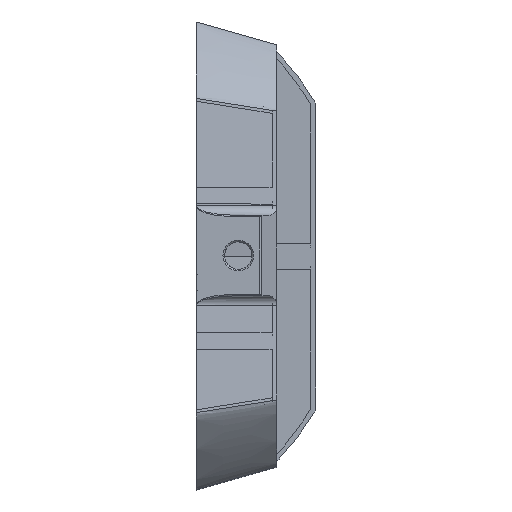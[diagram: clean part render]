
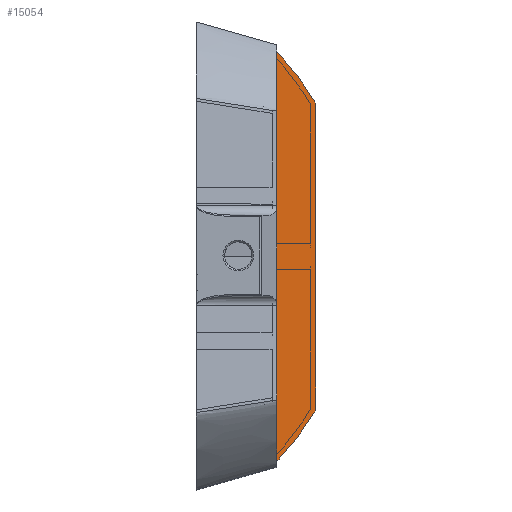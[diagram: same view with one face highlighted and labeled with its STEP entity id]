
A CAD part, top view. The second image highlights one B-rep face of the part: STEP entity #15054.
In plain terms, the highlighted planar face has unit normal (0, 0, 1).
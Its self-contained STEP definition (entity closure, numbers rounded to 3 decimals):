
#687=DIRECTION('',(0.,-1.,0.));
#688=VECTOR('',#687,126.575);
#689=CARTESIAN_POINT('',(98.,63.288,235.));
#690=LINE('',#689,#688);
#5683=DIRECTION('',(0.,-1.,0.));
#5684=VECTOR('',#5683,94.625);
#5685=CARTESIAN_POINT('',(110.,47.313,235.));
#5686=LINE('',#5685,#5684);
#5794=CARTESIAN_POINT('',(98.,-63.288,235.));
#5795=CARTESIAN_POINT('',(98.034,-63.278,235.));
#5796=CARTESIAN_POINT('',(98.101,-63.247,235.));
#5797=CARTESIAN_POINT('',(98.204,-63.185,235.));
#5798=CARTESIAN_POINT('',(98.312,-63.108,235.));
#5799=CARTESIAN_POINT('',(98.425,-63.019,235.));
#5800=CARTESIAN_POINT('',(98.545,-62.917,235.));
#5801=CARTESIAN_POINT('',(98.673,-62.803,235.));
#5802=CARTESIAN_POINT('',(98.81,-62.676,235.));
#5803=CARTESIAN_POINT('',(98.957,-62.534,235.));
#5804=CARTESIAN_POINT('',(99.116,-62.376,235.));
#5805=CARTESIAN_POINT('',(99.288,-62.201,235.));
#5806=CARTESIAN_POINT('',(99.474,-62.007,235.));
#5807=CARTESIAN_POINT('',(99.674,-61.792,235.));
#5808=CARTESIAN_POINT('',(99.891,-61.555,235.));
#5809=CARTESIAN_POINT('',(100.127,-61.294,235.));
#5810=CARTESIAN_POINT('',(100.382,-61.005,235.));
#5811=CARTESIAN_POINT('',(100.658,-60.687,235.));
#5812=CARTESIAN_POINT('',(100.959,-60.336,235.));
#5813=CARTESIAN_POINT('',(101.285,-59.95,235.));
#5814=CARTESIAN_POINT('',(101.639,-59.523,235.));
#5815=CARTESIAN_POINT('',(102.024,-59.054,235.));
#5816=CARTESIAN_POINT('',(102.442,-58.536,235.));
#5817=CARTESIAN_POINT('',(102.896,-57.965,235.));
#5818=CARTESIAN_POINT('',(103.386,-57.34,235.));
#5819=CARTESIAN_POINT('',(103.916,-56.654,235.));
#5820=CARTESIAN_POINT('',(104.491,-55.898,235.));
#5821=CARTESIAN_POINT('',(105.098,-55.086,235.));
#5822=CARTESIAN_POINT('',(105.682,-54.289,235.));
#5823=CARTESIAN_POINT('',(106.196,-53.576,235.));
#5824=CARTESIAN_POINT('',(106.644,-52.945,235.));
#5825=CARTESIAN_POINT('',(107.04,-52.378,235.));
#5826=CARTESIAN_POINT('',(107.392,-51.866,235.));
#5827=CARTESIAN_POINT('',(107.707,-51.401,235.));
#5828=CARTESIAN_POINT('',(107.989,-50.977,235.));
#5829=CARTESIAN_POINT('',(108.243,-50.59,235.));
#5830=CARTESIAN_POINT('',(108.471,-50.236,235.));
#5831=CARTESIAN_POINT('',(108.677,-49.91,235.));
#5832=CARTESIAN_POINT('',(108.863,-49.611,235.));
#5833=CARTESIAN_POINT('',(109.03,-49.337,235.));
#5834=CARTESIAN_POINT('',(109.18,-49.084,235.));
#5835=CARTESIAN_POINT('',(109.315,-48.852,235.));
#5836=CARTESIAN_POINT('',(109.436,-48.639,235.));
#5837=CARTESIAN_POINT('',(109.543,-48.442,235.));
#5838=CARTESIAN_POINT('',(109.638,-48.261,235.));
#5839=CARTESIAN_POINT('',(109.722,-48.094,235.));
#5840=CARTESIAN_POINT('',(109.796,-47.939,235.));
#5841=CARTESIAN_POINT('',(109.86,-47.796,235.));
#5842=CARTESIAN_POINT('',(109.914,-47.662,235.));
#5843=CARTESIAN_POINT('',(109.958,-47.537,235.));
#5844=CARTESIAN_POINT('',(109.989,-47.421,235.));
#5845=CARTESIAN_POINT('',(110.,-47.348,235.));
#5846=CARTESIAN_POINT('',(110.,-47.313,235.));
#5903=CARTESIAN_POINT('',(110.,47.313,235.));
#5904=CARTESIAN_POINT('',(110.,47.348,235.));
#5905=CARTESIAN_POINT('',(109.989,47.421,235.));
#5906=CARTESIAN_POINT('',(109.958,47.537,235.));
#5907=CARTESIAN_POINT('',(109.914,47.662,235.));
#5908=CARTESIAN_POINT('',(109.86,47.796,235.));
#5909=CARTESIAN_POINT('',(109.796,47.94,235.));
#5910=CARTESIAN_POINT('',(109.722,48.094,235.));
#5911=CARTESIAN_POINT('',(109.638,48.261,235.));
#5912=CARTESIAN_POINT('',(109.543,48.442,235.));
#5913=CARTESIAN_POINT('',(109.436,48.639,235.));
#5914=CARTESIAN_POINT('',(109.315,48.853,235.));
#5915=CARTESIAN_POINT('',(109.18,49.085,235.));
#5916=CARTESIAN_POINT('',(109.03,49.337,235.));
#5917=CARTESIAN_POINT('',(108.863,49.612,235.));
#5918=CARTESIAN_POINT('',(108.677,49.91,235.));
#5919=CARTESIAN_POINT('',(108.471,50.236,235.));
#5920=CARTESIAN_POINT('',(108.243,50.59,235.));
#5921=CARTESIAN_POINT('',(107.99,50.976,235.));
#5922=CARTESIAN_POINT('',(107.709,51.397,235.));
#5923=CARTESIAN_POINT('',(107.399,51.856,235.));
#5924=CARTESIAN_POINT('',(107.054,52.357,235.));
#5925=CARTESIAN_POINT('',(106.674,52.902,235.));
#5926=CARTESIAN_POINT('',(106.252,53.497,235.));
#5927=CARTESIAN_POINT('',(105.788,54.142,235.));
#5928=CARTESIAN_POINT('',(105.277,54.842,235.));
#5929=CARTESIAN_POINT('',(104.711,55.605,235.));
#5930=CARTESIAN_POINT('',(104.1,56.414,235.));
#5931=CARTESIAN_POINT('',(103.498,57.197,235.));
#5932=CARTESIAN_POINT('',(102.955,57.89,235.));
#5933=CARTESIAN_POINT('',(102.474,58.495,235.));
#5934=CARTESIAN_POINT('',(102.04,59.033,235.));
#5935=CARTESIAN_POINT('',(101.646,59.515,235.));
#5936=CARTESIAN_POINT('',(101.288,59.946,235.));
#5937=CARTESIAN_POINT('',(100.959,60.335,235.));
#5938=CARTESIAN_POINT('',(100.658,60.687,235.));
#5939=CARTESIAN_POINT('',(100.382,61.005,235.));
#5940=CARTESIAN_POINT('',(100.126,61.294,235.));
#5941=CARTESIAN_POINT('',(99.891,61.555,235.));
#5942=CARTESIAN_POINT('',(99.674,61.792,235.));
#5943=CARTESIAN_POINT('',(99.473,62.007,235.));
#5944=CARTESIAN_POINT('',(99.288,62.201,235.));
#5945=CARTESIAN_POINT('',(99.116,62.376,235.));
#5946=CARTESIAN_POINT('',(98.957,62.534,235.));
#5947=CARTESIAN_POINT('',(98.81,62.676,235.));
#5948=CARTESIAN_POINT('',(98.673,62.803,235.));
#5949=CARTESIAN_POINT('',(98.545,62.917,235.));
#5950=CARTESIAN_POINT('',(98.425,63.019,235.));
#5951=CARTESIAN_POINT('',(98.312,63.108,235.));
#5952=CARTESIAN_POINT('',(98.204,63.185,235.));
#5953=CARTESIAN_POINT('',(98.101,63.247,235.));
#5954=CARTESIAN_POINT('',(98.034,63.278,235.));
#5955=CARTESIAN_POINT('',(98.,63.288,235.));
#7031=CARTESIAN_POINT('',(98.,63.288,235.));
#7032=VERTEX_POINT('',#7031);
#7054=CARTESIAN_POINT('',(98.,-63.288,235.));
#7055=VERTEX_POINT('',#7054);
#8172=CARTESIAN_POINT('',(110.,47.313,235.));
#8173=CARTESIAN_POINT('',(110.,-47.313,235.));
#8174=VERTEX_POINT('',#8172);
#8175=VERTEX_POINT('',#8173);
#15040=CARTESIAN_POINT('',(116.5,1167.992,235.));
#15041=DIRECTION('',(0.,0.,1.));
#15042=DIRECTION('',(1.,0.,0.));
#15043=AXIS2_PLACEMENT_3D('',#15040,#15041,#15042);
#15044=PLANE('',#15043);
#15046=ORIENTED_EDGE('',*,*,#15045,.T.);
#15048=ORIENTED_EDGE('',*,*,#15047,.F.);
#15049=ORIENTED_EDGE('',*,*,#8915,.F.);
#15051=ORIENTED_EDGE('',*,*,#15050,.F.);
#15052=EDGE_LOOP('',(#15046,#15048,#15049,#15051));
#15053=FACE_OUTER_BOUND('',#15052,.F.);
#15054=ADVANCED_FACE('',(#15053),#15044,.T.);
#5847=B_SPLINE_CURVE_WITH_KNOTS('',3,(#5794,#5795,#5796,#5797,#5798,#5799,#5800,
#5801,#5802,#5803,#5804,#5805,#5806,#5807,#5808,#5809,#5810,#5811,#5812,#5813,
#5814,#5815,#5816,#5817,#5818,#5819,#5820,#5821,#5822,#5823,#5824,#5825,#5826,
#5827,#5828,#5829,#5830,#5831,#5832,#5833,#5834,#5835,#5836,#5837,#5838,#5839,
#5840,#5841,#5842,#5843,#5844,#5845,#5846),.UNSPECIFIED.,.F.,.F.,(4,1,1,1,1,1,1,
1,1,1,1,1,1,1,1,1,1,1,1,1,1,1,1,1,1,1,1,1,1,1,1,1,1,1,1,1,1,1,1,1,1,1,1,1,1,1,1,
1,1,1,4),(0.,0.02,0.04,0.06,0.08,0.1,0.12,0.14,0.16,0.18,0.2,
0.22,0.24,0.26,0.28,0.3,0.32,0.34,0.36,0.38,0.4,0.42,
0.44,0.46,0.48,0.5,0.52,0.54,0.56,0.58,0.6,0.62,0.64,
0.66,0.68,0.7,0.72,0.74,0.76,0.78,0.8,0.82,0.84,0.86,
0.88,0.9,0.92,0.94,0.96,0.98,1.),.UNSPECIFIED.);
#5956=B_SPLINE_CURVE_WITH_KNOTS('',3,(#5903,#5904,#5905,#5906,#5907,#5908,#5909,
#5910,#5911,#5912,#5913,#5914,#5915,#5916,#5917,#5918,#5919,#5920,#5921,#5922,
#5923,#5924,#5925,#5926,#5927,#5928,#5929,#5930,#5931,#5932,#5933,#5934,#5935,
#5936,#5937,#5938,#5939,#5940,#5941,#5942,#5943,#5944,#5945,#5946,#5947,#5948,
#5949,#5950,#5951,#5952,#5953,#5954,#5955),.UNSPECIFIED.,.F.,.F.,(4,1,1,1,1,1,1,
1,1,1,1,1,1,1,1,1,1,1,1,1,1,1,1,1,1,1,1,1,1,1,1,1,1,1,1,1,1,1,1,1,1,1,1,1,1,1,1,
1,1,1,4),(0.,0.02,0.04,0.06,0.08,0.1,0.12,0.14,0.16,0.18,0.2,
0.22,0.24,0.26,0.28,0.3,0.32,0.34,0.36,0.38,0.4,0.42,
0.44,0.46,0.48,0.5,0.52,0.54,0.56,0.58,0.6,0.62,0.64,
0.66,0.68,0.7,0.72,0.74,0.76,0.78,0.8,0.82,0.84,0.86,
0.88,0.9,0.92,0.94,0.96,0.98,1.),.UNSPECIFIED.);
#8915=EDGE_CURVE('',#7032,#7055,#690,.T.);
#15045=EDGE_CURVE('',#8174,#8175,#5686,.T.);
#15047=EDGE_CURVE('',#7055,#8175,#5847,.T.);
#15050=EDGE_CURVE('',#8174,#7032,#5956,.T.);
